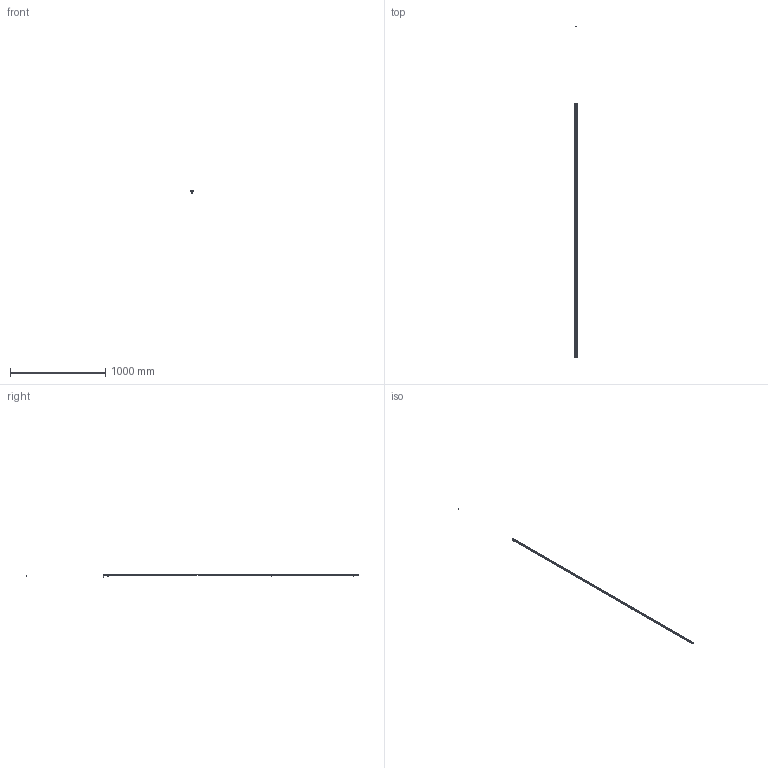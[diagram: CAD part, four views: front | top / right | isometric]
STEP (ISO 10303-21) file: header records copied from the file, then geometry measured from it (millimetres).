
FILE_DESCRIPTION (( 'STEP AP214' ), '1' );
FILE_NAME ('ILGA-B-K1a-2680mm.STEP', '2026-04-24T22:54:21', ( '' ), ( '' ), 'SwSTEP 2.0', 'SolidWorks 2025', '' );
FILE_SCHEMA (( 'AUTOMOTIVE_DESIGN' ));
Length unit declared in the file: millimetre
Products named in the file (1): ILGA-B-K1a-2680mm
Bounding box: 22.4 x 3492.5 x 34.2 mm (x, y, z)
Volume: 200115.4 mm3; surface area: 362556.1 mm2
Topology: 13 solids, 13 shells, 728 faces, 1866 edges, 1142 vertices
Faces by surface type: plane 314, cylinder 270, cone 60, torus 44, bspline 24, sphere 16
Entity records: 30387 total; most frequent: CARTESIAN_POINT 4637, DIRECTION 3846, ORIENTED_EDGE 3644, EDGE_CURVE 1822, AXIS2_PLACEMENT_3D 1439, VERTEX_POINT 1142, LINE 968, VECTOR 968
